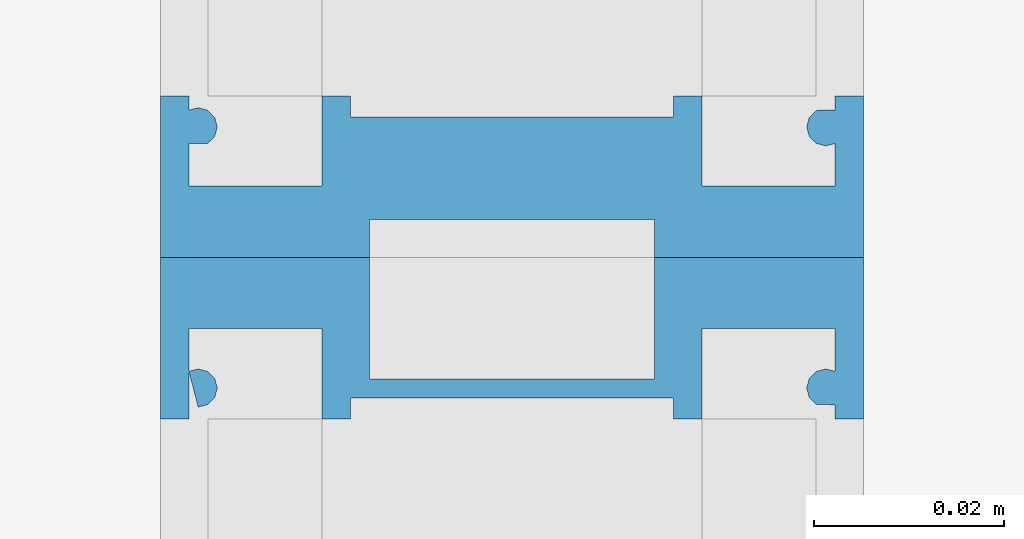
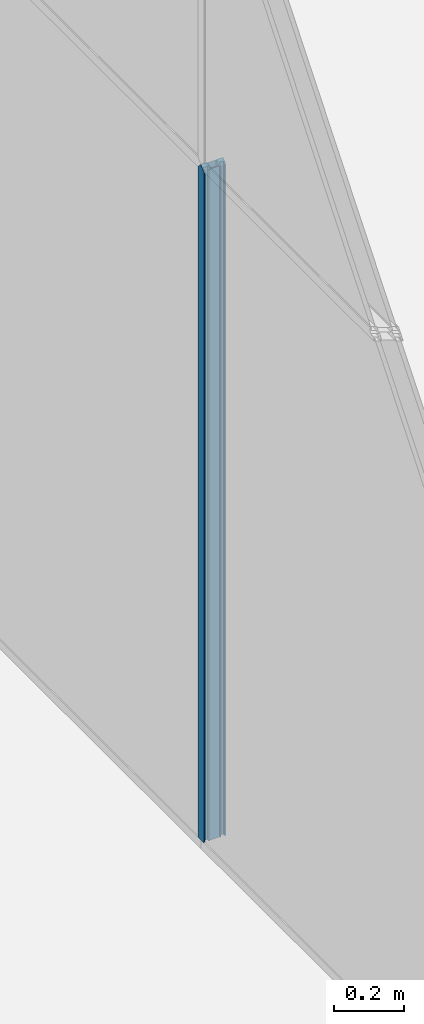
# One storey, part 16 of 246: 1 member, 1 element without a shape of its own.
"""IFC2X3 building model written with IfcOpenShell, lengths in millimetres."""

from ifc_helpers import new_model, entity, si_unit, converted_unit, derived_unit, money_unit, direction, frame, origin_with_axes, place, context, subcontext, project, spatial, faceted_brep, source, transform, mapped, material, material_list, type_object, element, aggregate, save


model = new_model("IFC2X3")

# Units and contexts
model_context = context("Model", 3, precision=0.01, world=origin_with_axes(), true_north=direction((0.0, 1.0)))
body_context = subcontext(model_context, "Body", "Model", "MODEL_VIEW")
ifc_project = project(units=[si_unit("LENGTHUNIT", "METRE", prefix="MILLI"), si_unit("AREAUNIT", "SQUARE_METRE"), si_unit("VOLUMEUNIT", "CUBIC_METRE"), converted_unit("PLANEANGLEUNIT", "DEGREE", entity("IfcPlaneAngleMeasure", 0.0174532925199), si_unit("PLANEANGLEUNIT", "RADIAN"), dimensions=[0, 0, 0, 0, 0, 0, 0]), si_unit("SOLIDANGLEUNIT", "STERADIAN"), money_unit("EUR"), converted_unit("TIMEUNIT", "Year", entity("IfcTimeMeasure", 31556926.0), si_unit("TIMEUNIT", "SECOND"), dimensions=[0, 0, 1, 0, 0, 0, 0]), si_unit("MASSUNIT", "GRAM", prefix="KILO"), si_unit("THERMODYNAMICTEMPERATUREUNIT", "DEGREE_CELSIUS"), si_unit("LUMINOUSINTENSITYUNIT", "LUMEN"), si_unit("ENERGYUNIT", "JOULE", prefix="MEGA"), derived_unit("THERMALCONDUCTANCEUNIT", [(si_unit("POWERUNIT", "WATT"), 1), (si_unit("LENGTHUNIT", "METRE"), -1), (si_unit("THERMODYNAMICTEMPERATUREUNIT", "KELVIN"), -1)]), derived_unit("SPECIFICHEATCAPACITYUNIT", [(si_unit("ENERGYUNIT", "JOULE"), 1), (si_unit("MASSUNIT", "GRAM", prefix="KILO"), -1), (si_unit("THERMODYNAMICTEMPERATUREUNIT", "KELVIN"), -1)]), derived_unit("MASSDENSITYUNIT", [(si_unit("MASSUNIT", "GRAM", prefix="KILO"), 1), (si_unit("VOLUMEUNIT", "CUBIC_METRE"), -1)])], contexts=[model_context])

# Site, building, storey
site_placement = place(None, origin_with_axes())
site = spatial("IfcSite", under=ifc_project, at=site_placement, Name="L.Koidula tn 11b", CompositionType="ELEMENT")
building_placement = place(site_placement, origin_with_axes())
building = spatial("IfcBuilding", under=site, at=building_placement, Name="Rakvere Riigigümnaasium", CompositionType="ELEMENT")
storey_placement = place(building_placement, origin_with_axes())
storey = spatial("IfcBuildingStorey", under=building, at=storey_placement, Name="1.korrus 0,00", CompositionType="ELEMENT", Elevation=0.0)

# Curtain wall, member
curtain_wall_type = type_object("IfcCurtainWallType", Name="Curtain Wall Type", PredefinedType="NOTDEFINED")
curtain_wall_placement = place(storey_placement, frame((32835.0202258, 67589.2016838, 0.0), z_axis=(0.0, 0.0, 1.0), x_axis=(1.0, 0.0, 0.0)))
curtain_wall = element("IfcCurtainWall", 1, at=curtain_wall_placement, inside=storey, type_object=curtain_wall_type, Name="SKLF-02")
ifc_material_1 = material(Name="Klaasvill")
ifc_material_2 = material(Name="Teras RAL7012")
ifc_material_list = material_list([ifc_material_1, ifc_material_2])
member_type = type_object("IfcMemberType", Name="Siseklaasfassaad-Vaheprofiil-Doubleline30 34 x 42", PredefinedType="MULLION")
shared_shape = source(origin_with_axes(), body_context, "Body", "Brep", [
    faceted_brep([(15.5126239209, 29.0161444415, 2384.48737608), (15.7655837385, 28.0385325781, 2384.23441626), (15.7655837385, 28.0385325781, 30.0000193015), (15.5126239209, 29.0161444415, 30.0000193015), (15.4955493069, 27.0307503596, 2384.50445069), (11.987414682, 29.0161444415, 2388.01258532), (12.004489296, 27.0307503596, 2387.9955107), (12.742237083, 26.2930025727, 2387.25776292), (13.7500193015, 26.0229681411, 2386.2499807), (14.75780152, 26.2930025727, 2385.24219848), (15.4955493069, 27.0307503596, 30.0000193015), (14.75780152, 26.2930025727, 30.0000193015), (13.7500193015, 26.0229681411, 30.0000193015), (12.742237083, 26.2930025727, 30.0000193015), (12.004489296, 27.0307503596, 30.0000193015), (11.987414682, 29.0161444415, 30.0000193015)], [[[0, 1, 2, 3]], [[4, 1, 0, 5, 6, 7, 8, 9]], [[1, 4, 10, 2]], [[2, 10, 11, 12, 13, 14, 15, 3]], [[5, 0, 3, 15]], [[6, 5, 15, 14]], [[7, 6, 14, 13]], [[8, 7, 13, 12]], [[9, 8, 12, 11]], [[4, 9, 11, 10]]]),
    faceted_brep([(15.4955493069, -37.0307503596, 2384.50445069), (15.5126239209, -39.0161444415, 2384.48737608), (15.5126239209, -39.0161444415, 30.0000193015), (15.4955493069, -37.0307503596, 30.0000193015), (11.987414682, -39.0161444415, 2388.01258532), (14.75780152, -36.2930025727, 2385.24219848), (13.7500193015, -36.0229681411, 2386.2499807), (12.742237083, -36.2930025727, 2387.25776292), (12.004489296, -37.0307503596, 2387.9955107), (11.7344548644, -38.0385325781, 2388.26554514), (11.987414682, -39.0161444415, 30.0000193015), (11.7344548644, -38.0385325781, 30.0000193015), (12.004489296, -37.0307503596, 30.0000193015), (12.742237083, -36.2930025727, 30.0000193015), (13.7500193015, -36.0229681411, 30.0000193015), (14.75780152, -36.2930025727, 30.0000193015)], [[[0, 1, 2, 3]], [[4, 1, 0, 5, 6, 7, 8, 9]], [[1, 4, 10, 2]], [[2, 10, 11, 12, 13, 14, 15, 3]], [[5, 0, 3, 15]], [[6, 5, 15, 14]], [[7, 6, 14, 13]], [[8, 7, 13, 12]], [[9, 8, 12, 11]], [[4, 9, 11, 10]]]),
    faceted_brep([(-11.987414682, 29.0161444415, 2388.01258532), (-11.7344548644, 28.0385325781, 2388.26554514), (-11.7344548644, 28.0385325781, 30.0000193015), (-11.987414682, 29.0161444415, 30.0000193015), (-12.004489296, 27.0307503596, 2387.9955107), (-15.7655837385, 28.0385325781, 2384.23441626), (-15.4955493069, 27.0307503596, 2384.50445069), (-14.75780152, 26.2930025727, 2385.24219848), (-13.7500193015, 26.0229681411, 2386.2499807), (-12.742237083, 26.2930025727, 2387.25776292), (-12.004489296, 27.0307503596, 30.0000193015), (-12.742237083, 26.2930025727, 30.0000193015), (-13.7500193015, 26.0229681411, 30.0000193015), (-14.75780152, 26.2930025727, 30.0000193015), (-15.4955493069, 27.0307503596, 30.0000193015), (-15.7655837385, 28.0385325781, 30.0000193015)], [[[0, 1, 2, 3]], [[4, 1, 0, 5, 6, 7, 8, 9]], [[1, 4, 10, 2]], [[2, 10, 11, 12, 13, 14, 15, 3]], [[5, 0, 3, 15]], [[6, 5, 15, 14]], [[7, 6, 14, 13]], [[8, 7, 13, 12]], [[9, 8, 12, 11]], [[4, 9, 11, 10]]]),
    faceted_brep([(-12.004489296, -37.0307503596, 2387.9955107), (-11.7344548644, -38.0385325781, 2388.26554514), (-11.7344548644, -38.0385325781, 30.0000193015), (-12.004489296, -37.0307503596, 30.0000193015), (-11.987414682, -39.0161444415, 2388.01258532), (-12.742237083, -36.2930025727, 2387.25776292), (-13.7500193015, -36.0229681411, 2386.2499807), (-14.75780152, -36.2930025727, 2385.24219848), (-15.4955493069, -37.0307503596, 2384.50445069), (-15.5126239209, -39.0161444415, 2384.48737608), (-11.987414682, -39.0161444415, 30.0000193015), (-15.5126239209, -39.0161444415, 30.0000193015), (-15.4955493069, -37.0307503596, 30.0000193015), (-14.75780152, -36.2930025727, 30.0000193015), (-13.7500193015, -36.0229681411, 30.0000193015), (-12.742237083, -36.2930025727, 30.0000193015)], [[[0, 1, 2, 3]], [[4, 1, 0, 5, 6, 7, 8, 9]], [[1, 4, 10, 2]], [[2, 10, 11, 12, 13, 14, 15, 3]], [[5, 0, 3, 15]], [[6, 5, 15, 14]], [[7, 6, 14, 13]], [[8, 7, 13, 12]], [[9, 8, 12, 11]], [[4, 9, 11, 10]]]),
    faceted_brep([(4.0000003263, -20.0000001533, 2395.99999967), (4.0000003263, 10.0000001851, 2395.99999967), (4.0000003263, 10.0000001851, 30.0000193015), (4.0000003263, -20.0000001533, 30.0000193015), (14.8000003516, -22.0000000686, 2385.19999965), (14.8000003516, 12.0000001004, 2385.19999965), (0.0, 12.0000001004, 2400.0), (0.0, 10.0000001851, 2400.0), (0.0, -20.0000001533, 2400.0), (0.0, -22.0000000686, 2400.0), (-12.8000002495, 10.0000001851, 2387.19999975), (-12.8000002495, 10.0000001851, 30.0000193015), (14.8000003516, -22.0000000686, 30.0000193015), (-3.05044456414e-07, -22.0000000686, 30.0000193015), (-14.8000001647, -22.0000000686, 30.0000193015), (-14.8000001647, 12.0000001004, 30.0000193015), (-3.05044456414e-07, 12.0000001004, 30.0000193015), (14.8000003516, 12.0000001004, 30.0000193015), (-12.8000002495, -20.0000001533, 30.0000193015), (-12.8000002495, -20.0000001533, 2387.19999975), (-14.8000001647, 12.0000001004, 2385.19999984), (-14.8000001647, -22.0000000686, 2385.19999984)], [[[0, 1, 2, 3]], [[4, 5, 6, 7, 1, 0, 8, 9]], [[7, 10, 11, 2, 1]], [[12, 13, 14, 15, 16, 17], [2, 11, 18, 3]], [[8, 0, 3, 18, 19]], [[5, 4, 12, 17]], [[6, 5, 17, 16]], [[6, 20, 21, 9, 8, 19, 10, 7]], [[4, 9, 13, 12]], [[10, 19, 18, 11]], [[9, 21, 14, 13]], [[21, 20, 15, 14]], [[20, 6, 16, 15]]]),
    faceted_brep([(0.0, 32.0000000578, 2400.0), (17.0000193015, 32.0000000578, 2382.9999807), (17.0000193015, 32.0000000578, 30.0000193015), (0.0, 32.0000000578, 30.0000193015), (17.0000193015, 29.0161446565, 2382.9999807), (0.0, 12.0, 2400.0), (14.8000003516, 12.0000001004, 2385.19999965), (17.0000193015, 12.0, 2382.9999807), (17.0000193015, 15.0000000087, 2382.9999807), (7.50000002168, 15.0000000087, 2392.49999998), (7.50000002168, 29.0161446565, 2392.49999998), (11.987414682, 29.0161444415, 2388.01258532), (15.5126239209, 29.0161444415, 2384.48737608), (17.0000193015, 29.0161446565, 30.0000193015), (15.5126239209, 29.0161444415, 30.0000193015), (11.987414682, 29.0161444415, 30.0000193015), (7.50000002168, 29.0161446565, 30.0000193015), (7.50000002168, 15.0000000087, 30.0000193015), (17.0000193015, 15.0000000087, 30.0000193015), (17.0000193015, 12.0, 30.0000193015), (14.8000003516, 12.0000001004, 30.0000193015), (0.0, 12.0, 30.0000193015)], [[[0, 1, 2, 3]], [[4, 1, 0, 5, 6, 7, 8, 9, 10, 11, 12]], [[1, 4, 13, 2]], [[2, 13, 14, 15, 16, 17, 18, 19, 20, 21, 3]], [[5, 0, 3, 21]], [[6, 5, 21, 20]], [[7, 6, 20, 19]], [[8, 7, 19, 18]], [[9, 8, 18, 17]], [[10, 9, 17, 16]], [[11, 10, 16, 15]], [[12, 11, 15, 14]], [[4, 12, 14, 13]]]),
    faceted_brep([(14.8000003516, -22.0000000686, 2385.19999965), (17.0000193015, -21.9999999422, 2382.9999807), (17.0000193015, -21.9999999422, 30.0000193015), (14.8000003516, -22.0000000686, 30.0000193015), (17.0000193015, -24.9999999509, 2382.9999807), (0.0, -21.9999999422, 2400.0), (0.0, -42.0, 2400.0), (17.0000193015, -42.0, 2382.9999807), (17.0000193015, -39.0161445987, 2382.9999807), (15.5126239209, -39.0161444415, 2384.48737608), (11.987414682, -39.0161444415, 2388.01258532), (7.50000002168, -39.0161445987, 2392.49999998), (7.50000002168, -24.9999999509, 2392.49999998), (17.0000193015, -24.9999999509, 30.0000193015), (7.50000002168, -24.9999999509, 30.0000193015), (7.50000002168, -39.0161445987, 30.0000193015), (11.987414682, -39.0161444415, 30.0000193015), (15.5126239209, -39.0161444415, 30.0000193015), (17.0000193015, -39.0161445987, 30.0000193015), (17.0000193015, -42.0, 30.0000193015), (0.0, -42.0, 30.0000193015), (0.0, -21.9999999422, 30.0000193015)], [[[0, 1, 2, 3]], [[4, 1, 0, 5, 6, 7, 8, 9, 10, 11, 12]], [[1, 4, 13, 2]], [[2, 13, 14, 15, 16, 17, 18, 19, 20, 21, 3]], [[5, 0, 3, 21]], [[6, 5, 21, 20]], [[7, 6, 20, 19]], [[8, 7, 19, 18]], [[9, 8, 18, 17]], [[10, 9, 17, 16]], [[11, 10, 16, 15]], [[12, 11, 15, 14]], [[4, 12, 14, 13]]]),
    faceted_brep([(-17.0000193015, 32.0, 2382.9999807), (0.0, 32.0, 2400.0), (0.0, 32.0, 30.0000193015), (-17.0000193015, 32.0, 30.0000193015), (-17.0000193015, 29.0161444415, 2382.9999807), (-15.5126239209, 29.0161444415, 2384.48737608), (-11.987414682, 29.0161444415, 2388.01258532), (-7.49999999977, 29.0161444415, 2392.5), (-7.49999999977, 15.0, 2392.5), (-17.0000193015, 15.0, 2382.9999807), (-17.0000193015, 12.0, 2382.9999807), (-14.8000001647, 12.0000001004, 2385.19999984), (0.0, 12.0, 2400.0), (0.0, 12.0, 30.0000193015), (-14.8000001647, 12.0000001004, 30.0000193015), (-17.0000193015, 12.0, 30.0000193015), (-17.0000193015, 15.0, 30.0000193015), (-7.49999999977, 15.0, 30.0000193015), (-7.49999999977, 29.0161444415, 30.0000193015), (-11.987414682, 29.0161444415, 30.0000193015), (-15.5126239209, 29.0161444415, 30.0000193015), (-17.0000193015, 29.0161444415, 30.0000193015)], [[[0, 1, 2, 3]], [[1, 0, 4, 5, 6, 7, 8, 9, 10, 11, 12]], [[1, 12, 13, 2]], [[2, 13, 14, 15, 16, 17, 18, 19, 20, 21, 3]], [[4, 0, 3, 21]], [[5, 4, 21, 20]], [[6, 5, 20, 19]], [[7, 6, 19, 18]], [[8, 7, 18, 17]], [[9, 8, 17, 16]], [[10, 9, 16, 15]], [[11, 10, 15, 14]], [[12, 11, 14, 13]]]),
    faceted_brep([(-14.8000001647, -22.0000000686, 2385.19999984), (0.0, -22.0, 2400.0), (0.0, -22.0, 30.0000193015), (-14.8000001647, -22.0000000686, 30.0000193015), (-17.0000193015, -22.0, 2382.9999807), (-17.0000193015, -25.0, 2382.9999807), (-7.49999999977, -25.0, 2392.5), (-7.49999999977, -39.0161444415, 2392.5), (-11.987414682, -39.0161444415, 2388.01258532), (-15.5126239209, -39.0161444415, 2384.48737608), (-17.0000193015, -39.0161444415, 2382.9999807), (-17.0000193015, -42.0, 2382.9999807), (0.0, -42.0, 2400.0), (0.0, -42.0, 30.0000193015), (-17.0000193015, -42.0, 30.0000193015), (-17.0000193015, -39.0161444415, 30.0000193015), (-15.5126239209, -39.0161444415, 30.0000193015), (-11.987414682, -39.0161444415, 30.0000193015), (-7.49999999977, -39.0161444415, 30.0000193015), (-7.49999999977, -25.0, 30.0000193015), (-17.0000193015, -25.0, 30.0000193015), (-17.0000193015, -22.0, 30.0000193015)], [[[0, 1, 2, 3]], [[1, 0, 4, 5, 6, 7, 8, 9, 10, 11, 12]], [[1, 12, 13, 2]], [[2, 13, 14, 15, 16, 17, 18, 19, 20, 21, 3]], [[4, 0, 3, 21]], [[5, 4, 21, 20]], [[6, 5, 20, 19]], [[7, 6, 19, 18]], [[8, 7, 18, 17]], [[9, 8, 17, 16]], [[10, 9, 16, 15]], [[11, 10, 15, 14]], [[12, 11, 14, 13]]]),
])
member_placement = place(curtain_wall_placement, frame((0.0, -993.75, 0.0), z_axis=(0.0, 0.0, 1.0), x_axis=(0.0, 1.0, 0.0)))
member = element("IfcMember", 2, at=member_placement, type_object=member_type, material=ifc_material_list, Name="Frame-Siseklaasf-056", ObjectType="MULLION", context=body_context, shape_type="MappedRepresentation", body=[
    mapped(shared_shape, transform((0.0, 0.0, 0.0))),
])
aggregate(curtain_wall, [member])

save(model, "model.ifc")
